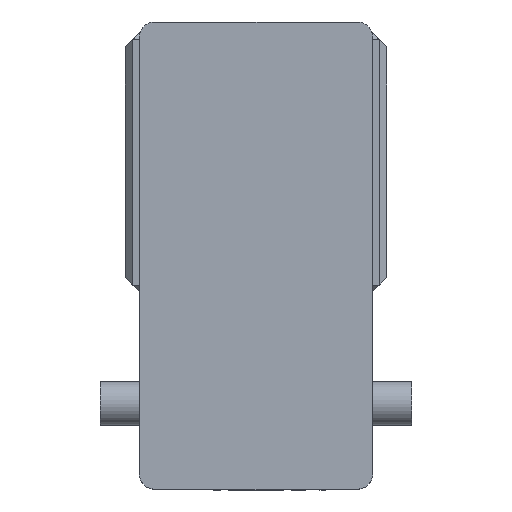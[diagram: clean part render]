
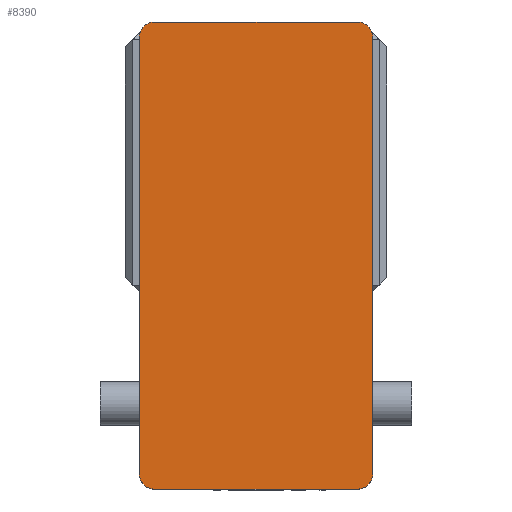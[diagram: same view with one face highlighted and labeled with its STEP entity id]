
A CAD part, left-side view. The second image highlights one B-rep face of the part: STEP entity #8390.
In plain terms, the highlighted planar face has unit normal (-1, 0, 0) as drawn and (0, 0, 1) by its records, which use the part's own axes.
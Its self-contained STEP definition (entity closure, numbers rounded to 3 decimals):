
#35 = EDGE_CURVE ( 'NONE', #729, #11114, #2375, .T. ) ;
#250 = DIRECTION ( 'NONE',  ( 1., 0., 0. ) ) ;
#252 = DIRECTION ( 'NONE',  ( 0., 0., 1. ) ) ;
#263 = CARTESIAN_POINT ( 'NONE',  ( 65., -140., 105. ) ) ;
#370 = VERTEX_POINT ( 'NONE', #9745 ) ;
#533 = CIRCLE ( 'NONE', #10733, 10. ) ;
#577 = AXIS2_PLACEMENT_3D ( 'NONE', #263, #252, #250 ) ;
#676 = CARTESIAN_POINT ( 'NONE',  ( -75., -150., 105. ) ) ;
#729 = VERTEX_POINT ( 'NONE', #1669 ) ;
#757 = DIRECTION ( 'NONE',  ( 1., 0., 0. ) ) ;
#765 = CARTESIAN_POINT ( 'NONE',  ( -75., 140., 105. ) ) ;
#801 = CIRCLE ( 'NONE', #577, 10. ) ;
#891 = VECTOR ( 'NONE', #757, 1000. ) ;
#925 = LINE ( 'NONE', #676, #891 ) ;
#978 = DIRECTION ( 'NONE',  ( 0., -1., 0. ) ) ;
#1013 = CARTESIAN_POINT ( 'NONE',  ( -75., 150., 105. ) ) ;
#1035 = VECTOR ( 'NONE', #978, 1000. ) ;
#1065 = LINE ( 'NONE', #1013, #1035 ) ;
#1109 = AXIS2_PLACEMENT_3D ( 'NONE', #9950, #9911, #9897 ) ;
#1135 = EDGE_CURVE ( 'NONE', #5468, #5811, #11073, .T. ) ;
#1519 = LINE ( 'NONE', #2087, #1570 ) ;
#1570 = VECTOR ( 'NONE', #2125, 1000. ) ;
#1610 = FACE_OUTER_BOUND ( 'NONE', #5237, .T. ) ;
#1669 = CARTESIAN_POINT ( 'NONE',  ( -65., 150., 105. ) ) ;
#1706 = VECTOR ( 'NONE', #2574, 1000. ) ;
#1872 = LINE ( 'NONE', #2613, #1706 ) ;
#2087 = CARTESIAN_POINT ( 'NONE',  ( -75., 150., 105. ) ) ;
#2125 = DIRECTION ( 'NONE',  ( -1., 0., 0. ) ) ;
#2289 = DIRECTION ( 'NONE',  ( 0., 0., 1. ) ) ;
#2375 = CIRCLE ( 'NONE', #7848, 10. ) ;
#2562 = AXIS2_PLACEMENT_3D ( 'NONE', #3376, #2289, #10208 ) ;
#2571 = VERTEX_POINT ( 'NONE', #4645 ) ;
#2574 = DIRECTION ( 'NONE',  ( 0., 1., 0. ) ) ;
#2613 = CARTESIAN_POINT ( 'NONE',  ( 75., 150., 105. ) ) ;
#2681 = CARTESIAN_POINT ( 'NONE',  ( -65., -150., 105. ) ) ;
#2949 = EDGE_CURVE ( 'NONE', #6662, #2571, #1872, .T. ) ;
#3030 = EDGE_CURVE ( 'NONE', #370, #729, #1519, .T. ) ;
#3259 = EDGE_CURVE ( 'NONE', #11114, #5468, #1065, .T. ) ;
#3340 = EDGE_CURVE ( 'NONE', #5811, #4677, #925, .T. ) ;
#3376 = CARTESIAN_POINT ( 'NONE',  ( -65., -140., 105. ) ) ;
#3409 = EDGE_CURVE ( 'NONE', #4677, #6662, #801, .T. ) ;
#3550 = EDGE_CURVE ( 'NONE', #2571, #370, #533, .T. ) ;
#3935 = CARTESIAN_POINT ( 'NONE',  ( -75., -140., 105. ) ) ;
#4013 = ORIENTED_EDGE ( 'NONE', *, *, #3409, .T. ) ;
#4020 = CARTESIAN_POINT ( 'NONE',  ( -65., 140., 105. ) ) ;
#4048 = DIRECTION ( 'NONE',  ( 0., 0., 1. ) ) ;
#4645 = CARTESIAN_POINT ( 'NONE',  ( 75., 140., 105. ) ) ;
#4677 = VERTEX_POINT ( 'NONE', #7695 ) ;
#5020 = ORIENTED_EDGE ( 'NONE', *, *, #3550, .T. ) ;
#5235 = DIRECTION ( 'NONE',  ( 1., 0., 0. ) ) ;
#5237 = EDGE_LOOP ( 'NONE', ( #6706, #4013, #6794, #5020, #5928, #9054, #10698, #6376 ) ) ;
#5468 = VERTEX_POINT ( 'NONE', #3935 ) ;
#5650 = CARTESIAN_POINT ( 'NONE',  ( 75., -140., 105. ) ) ;
#5811 = VERTEX_POINT ( 'NONE', #2681 ) ;
#5928 = ORIENTED_EDGE ( 'NONE', *, *, #3030, .T. ) ;
#6168 = DIRECTION ( 'NONE',  ( 1., 0., 0. ) ) ;
#6376 = ORIENTED_EDGE ( 'NONE', *, *, #1135, .T. ) ;
#6551 = CARTESIAN_POINT ( 'NONE',  ( 65., 140., 105. ) ) ;
#6590 = DIRECTION ( 'NONE',  ( 0., 0., 1. ) ) ;
#6662 = VERTEX_POINT ( 'NONE', #5650 ) ;
#6706 = ORIENTED_EDGE ( 'NONE', *, *, #3340, .T. ) ;
#6794 = ORIENTED_EDGE ( 'NONE', *, *, #2949, .T. ) ;
#7695 = CARTESIAN_POINT ( 'NONE',  ( 65., -150., 105. ) ) ;
#7848 = AXIS2_PLACEMENT_3D ( 'NONE', #4020, #4048, #5235 ) ;
#8390 = ADVANCED_FACE ( 'NONE', ( #1610 ), #9959, .T. ) ;
#9054 = ORIENTED_EDGE ( 'NONE', *, *, #35, .T. ) ;
#9745 = CARTESIAN_POINT ( 'NONE',  ( 65., 150., 105. ) ) ;
#9897 = DIRECTION ( 'NONE',  ( 1., 0., 0. ) ) ;
#9911 = DIRECTION ( 'NONE',  ( 0., 0., 1. ) ) ;
#9950 = CARTESIAN_POINT ( 'NONE',  ( 0., 0., 105. ) ) ;
#9959 = PLANE ( 'NONE',  #1109 ) ;
#10208 = DIRECTION ( 'NONE',  ( 1., 0., 0. ) ) ;
#10698 = ORIENTED_EDGE ( 'NONE', *, *, #3259, .T. ) ;
#10733 = AXIS2_PLACEMENT_3D ( 'NONE', #6551, #6590, #6168 ) ;
#11073 = CIRCLE ( 'NONE', #2562, 10. ) ;
#11114 = VERTEX_POINT ( 'NONE', #765 ) ;
